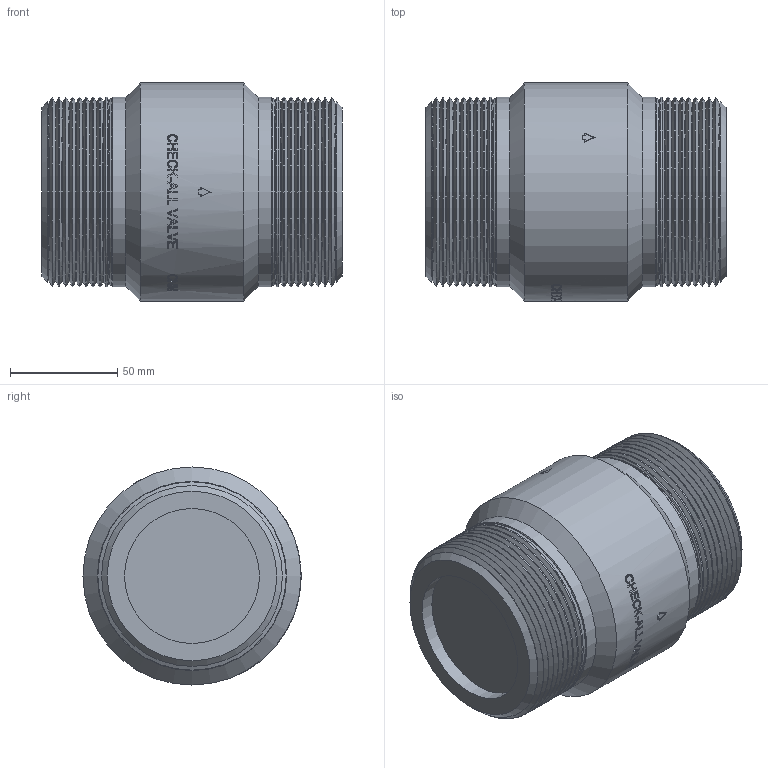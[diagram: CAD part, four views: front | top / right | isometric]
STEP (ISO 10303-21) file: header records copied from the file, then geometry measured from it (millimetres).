
FILE_DESCRIPTION( ( 'Unknown' ), '1' );
FILE_NAME( 'Y:/ENGR/3D Solid Edge Models/CN/CNM.stp', 'Unknown', ( 'Unknown' ), ( 'Unknown' ), 'PSStep 14.0', 'Unknown', ' ' );
FILE_SCHEMA( ( 'AUTOMOTIVE_DESIGN { 1 0 10303 214 1 1 1 1 }' ) );
Length unit declared in the file: inch
Products named in the file (1): 1
Bounding box: 139.83 x 101.6 x 101.6 mm (x, y, z)
Volume: 900519.3 mm3; surface area: 67577.3 mm2
Topology: 1 solids, 1 shells, 303 faces, 748 edges, 474 vertices
Faces by surface type: plane 132, bspline 55, cone 52, cylinder 42, torus 22
Full cylindrical faces by diameter (mm): 62.865 x2, 88.138 x14, 101.6 x1
Entity records: 12996 total; most frequent: CARTESIAN_POINT 5043, ORIENTED_EDGE 1286, DIRECTION 686, EDGE_CURVE 643, B_SPLINE_CURVE_WITH_KNOTS 549, VERTEX_POINT 460, EDGE_LOOP 421, AXIS2_PLACEMENT_3D 343
